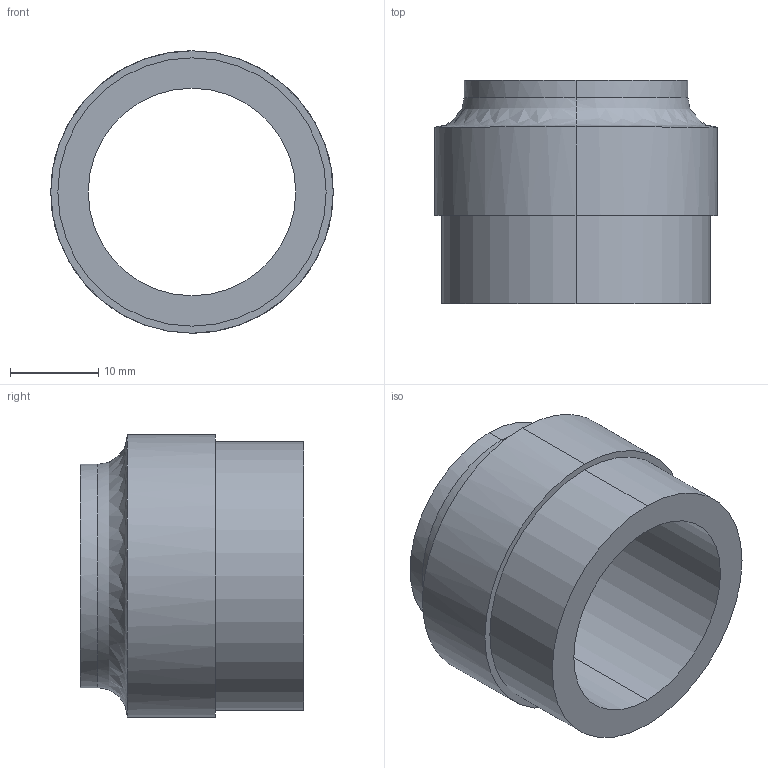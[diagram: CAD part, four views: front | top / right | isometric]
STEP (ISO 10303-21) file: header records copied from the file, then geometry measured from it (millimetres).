
FILE_DESCRIPTION (( 'STEP AP214' ), '1' );
FILE_NAME ('2019_miCube_Tube Filter block adapter.STEP', '2019-05-27T07:29:16', ( '' ), ( '' ), 'SwSTEP 2.0', 'SolidWorks 2017', '' );
FILE_SCHEMA (( 'AUTOMOTIVE_DESIGN' ));
Length unit declared in the file: millimetre
Products named in the file (1): 2019_miCube_Tube Filter block adapter
Bounding box: 32 x 25.32 x 32 mm (x, y, z)
Volume: 7203.6 mm3; surface area: 4885.6 mm2
Topology: 1 solids, 1 shells, 13 faces, 26 edges, 16 vertices
Faces by surface type: cylinder 8, plane 3, bspline 2
Entity records: 630 total; most frequent: CARTESIAN_POINT 330, DIRECTION 56, ORIENTED_EDGE 52, EDGE_CURVE 26, AXIS2_PLACEMENT_3D 24, VERTEX_POINT 16, EDGE_LOOP 16, ADVANCED_FACE 13
